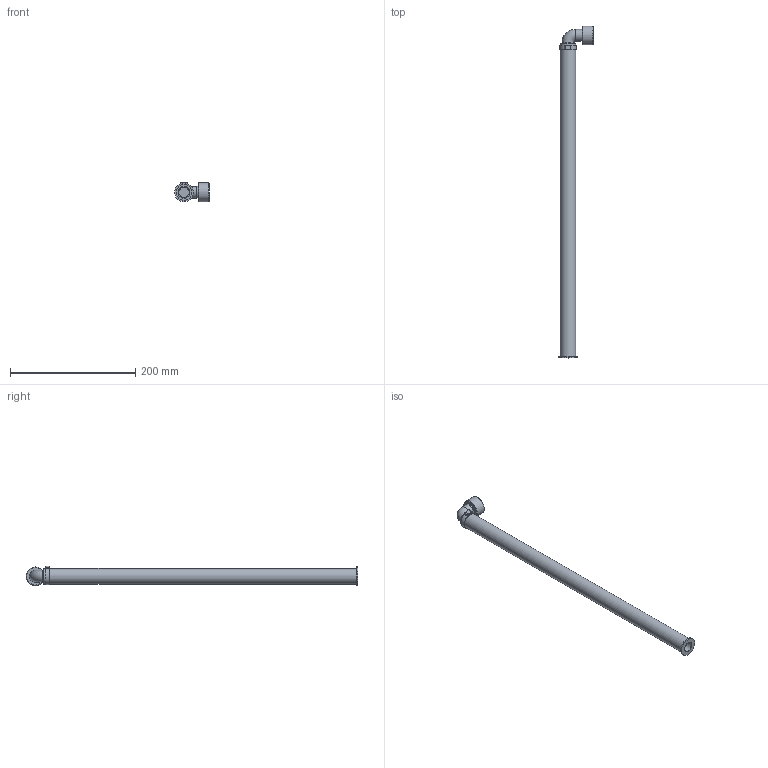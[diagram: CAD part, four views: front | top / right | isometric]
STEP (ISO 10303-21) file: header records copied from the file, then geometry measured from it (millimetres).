
FILE_DESCRIPTION( ( 'STEP AP203' ), '1' );
FILE_NAME( 'C:/Temp/Ganter_Step_05_03_2020/data/3_5/gn880_1/gn880_1_ans_abl/gn_880_1_c/Connector piece with drain hose GN 880.1-26-C-500-T.stp', '2020-03-12T13:42:34', ( 'License CC BY-ND 4.0' ), ( 'CADENAS' ), ' ', 'PARTsolutions', ' ' );
FILE_SCHEMA( ( 'CONFIG_CONTROL_DESIGN' ) );
Length unit declared in the file: millimetre
Products named in the file (6): Connector piece with drain hose GN 880.1-26-C-500-T; _Anschlussstueck mit Ablassschlauch GN 880.1-26-C-500-T_a; _Anschlussstueck mit Ablassschlauch GN 880.1-26-C-500-T_s; _Anschlussstueck mit Ablassschlauch GN 880.1-26-C-500-T_dk; _Anschlussstueck mit Ablassschlauch GN 880.1-26-C-500-T_sc; _Anschlussstueck mit Ablassschlauch GN 880.1-26-C-500-T_dk2
Assembly tree (5 placements, depth 2):
  Connector piece with drain hose GN 880.1-26-C-500-T
    _Anschlussstueck mit Ablassschlauch GN 880.1-26-C-500-T_a
    _Anschlussstueck mit Ablassschlauch GN 880.1-26-C-500-T_s
    _Anschlussstueck mit Ablassschlauch GN 880.1-26-C-500-T_dk
    _Anschlussstueck mit Ablassschlauch GN 880.1-26-C-500-T_sc
    _Anschlussstueck mit Ablassschlauch GN 880.1-26-C-500-T_dk2
Bounding box: 55.5 x 530.5 x 31 mm (x, y, z)
Volume: 117216.9 mm3; surface area: 85113.4 mm2
Topology: 5 solids, 5 shells, 60 faces, 110 edges, 71 vertices
Faces by surface type: plane 27, cylinder 25, torus 5, cone 3
Full cylindrical faces by diameter (mm): 11.5 x1, 12.9 x1, 13 x2, 16.4 x1, 17 x2, 19 x6, 22 x1, 24.376 x1, 25 x2, 30 x2
Entity records: 1557 total; most frequent: DIRECTION 270, CARTESIAN_POINT 217, ORIENTED_EDGE 162, AXIS2_PLACEMENT_3D 123, EDGE_LOOP 106, FACE_OUTER_BOUND 84, EDGE_CURVE 81, VERTEX_POINT 70
